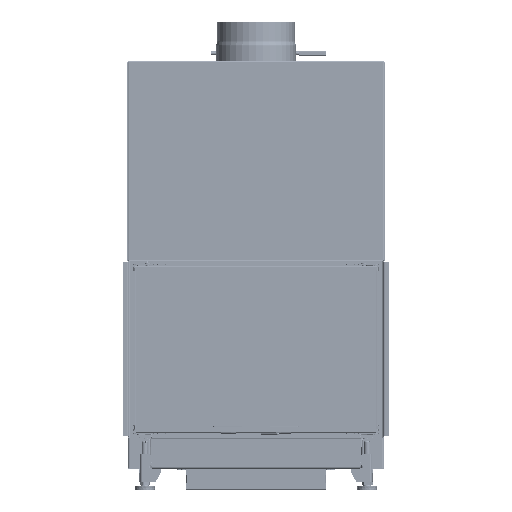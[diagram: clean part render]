
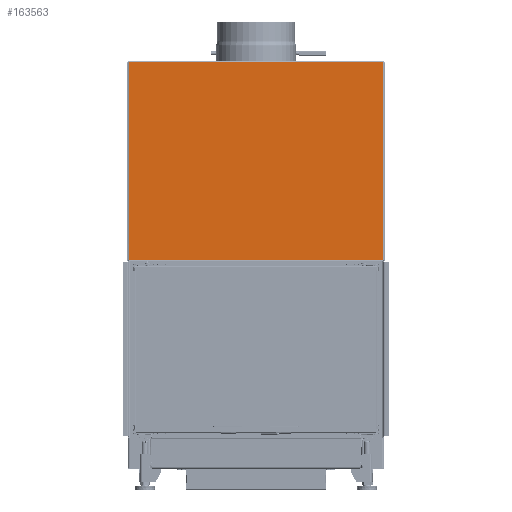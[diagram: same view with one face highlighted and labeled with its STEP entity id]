
A CAD part, front view. The second image highlights one B-rep face of the part: STEP entity #163563.
In plain terms, the highlighted planar face has unit normal (0, -1, 0).
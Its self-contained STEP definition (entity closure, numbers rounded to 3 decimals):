
#13144=FACE_OUTER_BOUND('',#22066,.T.);
#22066=EDGE_LOOP('',(#110976,#110977,#110978,#110979,#110980,#110981));
#32385=LINE('',#249644,#48610);
#32390=LINE('',#249732,#48615);
#32398=LINE('',#249951,#48623);
#32399=LINE('',#249953,#48624);
#32400=LINE('',#249957,#48625);
#32403=LINE('',#249963,#48628);
#48610=VECTOR('',#194384,10.);
#48615=VECTOR('',#194401,10.);
#48623=VECTOR('',#194423,10.);
#48624=VECTOR('',#194426,10.);
#48625=VECTOR('',#194433,10.);
#48628=VECTOR('',#194442,10.);
#65891=VERTEX_POINT('',#249625);
#65892=VERTEX_POINT('',#249636);
#65898=VERTEX_POINT('',#249725);
#65900=VERTEX_POINT('',#249731);
#65909=VERTEX_POINT('',#249942);
#65910=VERTEX_POINT('',#249949);
#82826=EDGE_CURVE('',#65892,#65891,#32385,.T.);
#82838=EDGE_CURVE('',#65900,#65891,#32390,.T.);
#82862=EDGE_CURVE('',#65909,#65910,#32398,.T.);
#82863=EDGE_CURVE('',#65898,#65900,#32399,.T.);
#82865=EDGE_CURVE('',#65910,#65898,#32400,.T.);
#82869=EDGE_CURVE('',#65892,#65909,#32403,.T.);
#110976=ORIENTED_EDGE('',*,*,#82863,.T.);
#110977=ORIENTED_EDGE('',*,*,#82838,.T.);
#110978=ORIENTED_EDGE('',*,*,#82826,.F.);
#110979=ORIENTED_EDGE('',*,*,#82869,.T.);
#110980=ORIENTED_EDGE('',*,*,#82862,.T.);
#110981=ORIENTED_EDGE('',*,*,#82865,.T.);
#153467=PLANE('',#173681);
#163563=ADVANCED_FACE('',(#13144),#153467,.T.);
#173681=AXIS2_PLACEMENT_3D('',#249962,#194440,#194441);
#194384=DIRECTION('',(1.,0.,0.));
#194401=DIRECTION('',(0.,0.,1.));
#194423=DIRECTION('',(0.,0.,-1.));
#194426=DIRECTION('',(0.,0.,1.));
#194433=DIRECTION('',(1.,0.,0.));
#194440=DIRECTION('center_axis',(0.,-1.,0.));
#194441=DIRECTION('ref_axis',(1.,0.,0.));
#194442=DIRECTION('',(0.,0.,-1.));
#249625=CARTESIAN_POINT('',(325.75,-328.5,1042.25));
#249636=CARTESIAN_POINT('',(-325.75,-328.5,1042.25));
#249644=CARTESIAN_POINT('',(0.,-328.5,1042.25));
#249725=CARTESIAN_POINT('',(325.75,-328.5,535.25));
#249731=CARTESIAN_POINT('',(325.75,-328.5,1041.57));
#249732=CARTESIAN_POINT('',(325.75,-328.5,683.846));
#249942=CARTESIAN_POINT('',(-325.75,-328.5,1041.57));
#249949=CARTESIAN_POINT('',(-325.75,-328.5,535.25));
#249951=CARTESIAN_POINT('',(-325.75,-328.5,937.346));
#249953=CARTESIAN_POINT('',(325.75,-328.5,683.846));
#249957=CARTESIAN_POINT('',(164.25,-328.5,535.25));
#249962=CARTESIAN_POINT('Origin',(0.,-328.5,
832.441));
#249963=CARTESIAN_POINT('',(-325.75,-328.5,937.346));
